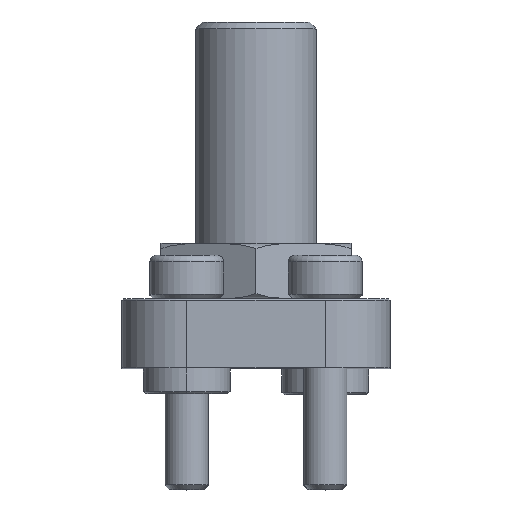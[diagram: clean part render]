
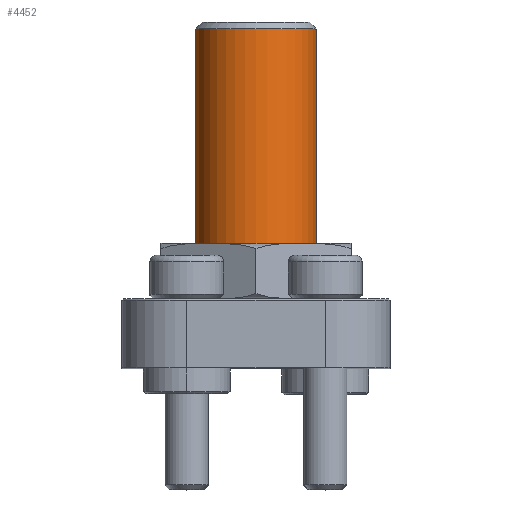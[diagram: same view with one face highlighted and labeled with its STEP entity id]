
A CAD part, top view. The second image highlights one B-rep face of the part: STEP entity #4452.
In plain terms, the highlighted cylindrical face has radius 7 mm (diameter 14 mm), a partial arc.
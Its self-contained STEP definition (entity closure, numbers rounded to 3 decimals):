
#1 = DIRECTION ( 'NONE',  ( 0., -1., 0. ) ) ;
#96 = CIRCLE ( 'NONE', #3073, 7. ) ;
#169 = CARTESIAN_POINT ( 'NONE',  ( -7., 14.42, 0. ) ) ;
#373 = LINE ( 'NONE', #3200, #2417 ) ;
#518 = AXIS2_PLACEMENT_3D ( 'NONE', #2752, #3550, #814 ) ;
#557 = VECTOR ( 'NONE', #3973, 1000. ) ;
#695 = FACE_OUTER_BOUND ( 'NONE', #5027, .T. ) ;
#814 = DIRECTION ( 'NONE',  ( 1., 0., 0. ) ) ;
#1256 = CARTESIAN_POINT ( 'NONE',  ( -7., 39.2, 0. ) ) ;
#1427 = EDGE_CURVE ( 'NONE', #4965, #4834, #1690, .T. ) ;
#1560 = VERTEX_POINT ( 'NONE', #2006 ) ;
#1569 = ORIENTED_EDGE ( 'NONE', *, *, #1427, .F. ) ;
#1589 = CYLINDRICAL_SURFACE ( 'NONE', #518, 7. ) ;
#1650 = EDGE_CURVE ( 'NONE', #1560, #2786, #373, .T. ) ;
#1674 = AXIS2_PLACEMENT_3D ( 'NONE', #2437, #2680, #2749 ) ;
#1690 = LINE ( 'NONE', #3300, #557 ) ;
#1758 = EDGE_CURVE ( 'NONE', #4965, #1560, #1929, .T. ) ;
#1929 = CIRCLE ( 'NONE', #1674, 7. ) ;
#2006 = CARTESIAN_POINT ( 'NONE',  ( 7., 14.42, 0. ) ) ;
#2314 = CARTESIAN_POINT ( 'NONE',  ( 0., 39.2, 0. ) ) ;
#2417 = VECTOR ( 'NONE', #3184, 1000. ) ;
#2437 = CARTESIAN_POINT ( 'NONE',  ( 0., 14.42, 0. ) ) ;
#2538 = EDGE_CURVE ( 'NONE', #2786, #4834, #96, .T. ) ;
#2680 = DIRECTION ( 'NONE',  ( 0., 1., 0. ) ) ;
#2720 = DIRECTION ( 'NONE',  ( -1., 0., 0. ) ) ;
#2749 = DIRECTION ( 'NONE',  ( 0., 0., -1. ) ) ;
#2752 = CARTESIAN_POINT ( 'NONE',  ( 0., 0., 0. ) ) ;
#2786 = VERTEX_POINT ( 'NONE', #4020 ) ;
#3073 = AXIS2_PLACEMENT_3D ( 'NONE', #2314, #1, #2720 ) ;
#3181 = ORIENTED_EDGE ( 'NONE', *, *, #2538, .T. ) ;
#3184 = DIRECTION ( 'NONE',  ( 0., 1., 0. ) ) ;
#3200 = CARTESIAN_POINT ( 'NONE',  ( 7., 0., 0. ) ) ;
#3300 = CARTESIAN_POINT ( 'NONE',  ( -7., 0., 0. ) ) ;
#3421 = ORIENTED_EDGE ( 'NONE', *, *, #1650, .T. ) ;
#3550 = DIRECTION ( 'NONE',  ( 0., 1., 0. ) ) ;
#3973 = DIRECTION ( 'NONE',  ( 0., 1., 0. ) ) ;
#4020 = CARTESIAN_POINT ( 'NONE',  ( 7., 39.2, 0. ) ) ;
#4452 = ADVANCED_FACE ( 'NONE', ( #695 ), #1589, .T. ) ;
#4668 = ORIENTED_EDGE ( 'NONE', *, *, #1758, .T. ) ;
#4834 = VERTEX_POINT ( 'NONE', #1256 ) ;
#4965 = VERTEX_POINT ( 'NONE', #169 ) ;
#5027 = EDGE_LOOP ( 'NONE', ( #1569, #4668, #3421, #3181 ) ) ;
